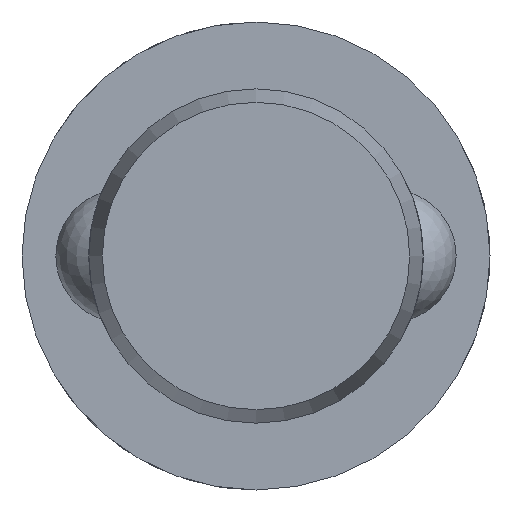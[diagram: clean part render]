
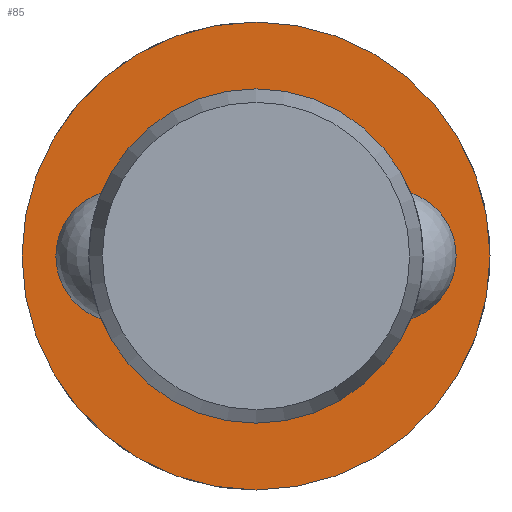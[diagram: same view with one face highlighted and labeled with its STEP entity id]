
A CAD part, left-side view. The second image highlights one B-rep face of the part: STEP entity #85.
In plain terms, the highlighted planar face has unit normal (-1, 0, 0).
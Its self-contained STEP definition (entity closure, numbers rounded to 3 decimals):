
#85 = ADVANCED_FACE( '', ( #130, #131 ), #132, .F. );
#130 = FACE_OUTER_BOUND( '', #200, .T. );
#131 = FACE_BOUND( '', #201, .T. );
#132 = PLANE( '', #202 );
#200 = EDGE_LOOP( '', ( #315 ) );
#201 = EDGE_LOOP( '', ( #316 ) );
#202 = AXIS2_PLACEMENT_3D( '', #317, #318, #319 );
#315 = ORIENTED_EDGE( '', *, *, #458, .F. );
#316 = ORIENTED_EDGE( '', *, *, #455, .T. );
#317 = CARTESIAN_POINT( '', ( 109.6, 5., 0. ) );
#318 = DIRECTION( '', ( 1., 0., 0. ) );
#319 = DIRECTION( '', ( 0., 0., -1. ) );
#455 = EDGE_CURVE( '', #528, #528, #529, .T. );
#458 = EDGE_CURVE( '', #534, #534, #535, .T. );
#528 = VERTEX_POINT( '', #732 );
#529 = CIRCLE( '', #733, 5. );
#534 = VERTEX_POINT( '', #844 );
#535 = CIRCLE( '', #845, 7. );
#732 = CARTESIAN_POINT( '', ( 109.6, 0., -5. ) );
#733 = AXIS2_PLACEMENT_3D( '', #922, #923, #924 );
#844 = CARTESIAN_POINT( '', ( 109.6, 0., -7. ) );
#845 = AXIS2_PLACEMENT_3D( '', #925, #926, #927 );
#922 = CARTESIAN_POINT( '', ( 109.6, 0., 0. ) );
#923 = DIRECTION( '', ( 1., 0., 0. ) );
#924 = DIRECTION( '', ( 0., 0., -1. ) );
#925 = CARTESIAN_POINT( '', ( 109.6, 0., 0. ) );
#926 = DIRECTION( '', ( 1., 0., 0. ) );
#927 = DIRECTION( '', ( 0., 0., -1. ) );
